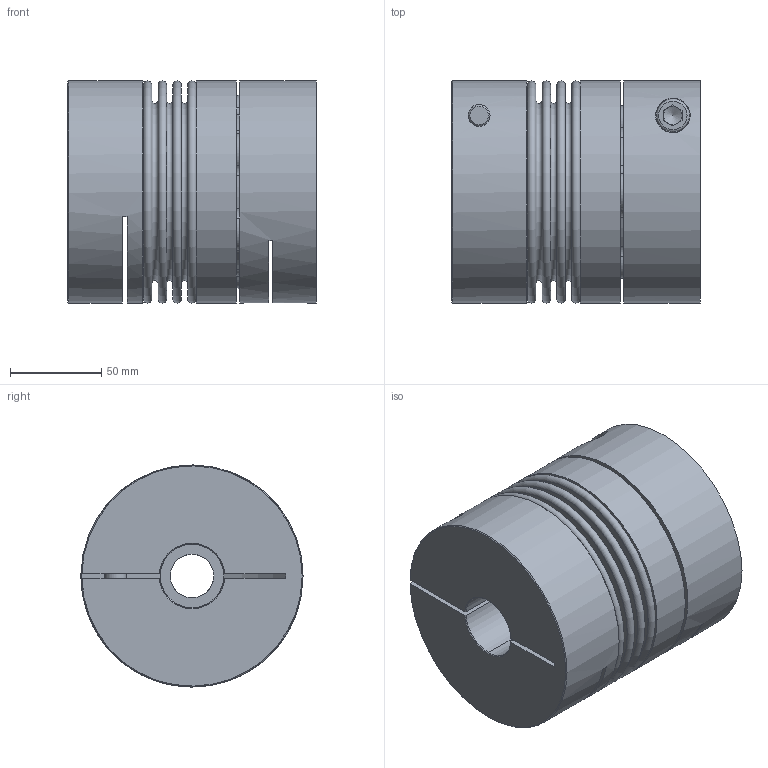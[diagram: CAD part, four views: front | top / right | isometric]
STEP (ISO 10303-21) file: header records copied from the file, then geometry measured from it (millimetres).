
FILE_DESCRIPTION( ( 'Unknown' ), '1' );
FILE_NAME( 'C:/Users/skarpstein/Desktop/KB4P/KB4P/KB4P-500-136.stp', 'Unknown', ( 'Unknown' ), ( 'Unknown' ), 'PSStep 16.0.42', 'Unknown', ' ' );
FILE_SCHEMA( ( 'AUTOMOTIVE_DESIGN { 1 0 10303 214 1 1 1 1 }' ) );
Length unit declared in the file: millimetre
Products named in the file (6): Assem1; BK500_Standard_0; KN500_Standard_1; Socket Head Cap Screw_DIN_DIN 912 M12 x 55 --- 55N_3; Stecknabe KB4P-500; Balgaufnahme KB4P-500
Assembly tree (6 placements, depth 2):
  Assem1
    BK500_Standard_0
    KN500_Standard_1
    Socket Head Cap Screw_DIN_DIN 912 M12 x 55 --- 55N_3  x2
    Stecknabe KB4P-500
    Balgaufnahme KB4P-500
Bounding box: 136.45 x 122 x 122 mm (x, y, z)
Volume: 1161695.9 mm3; surface area: 239748.8 mm2
Topology: 6 solids, 6 shells, 192 faces, 442 edges, 281 vertices
Faces by surface type: cone 80, plane 69, cylinder 25, torus 18
Full cylindrical faces by diameter (mm): 10.106 x1, 12 x3, 12.5 x2, 18 x2, 19 x2, 24 x1, 35 x1, 107.7 x2, 108.9 x2, 122 x3
Entity records: 6478 total; most frequent: CARTESIAN_POINT 1140, DIRECTION 896, ORIENTED_EDGE 694, AXIS2_PLACEMENT_3D 385, EDGE_CURVE 347, VERTEX_POINT 251, EDGE_LOOP 239, CIRCLE 209
